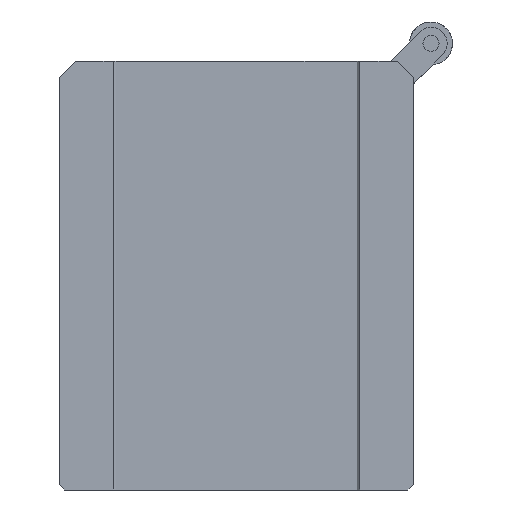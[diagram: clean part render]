
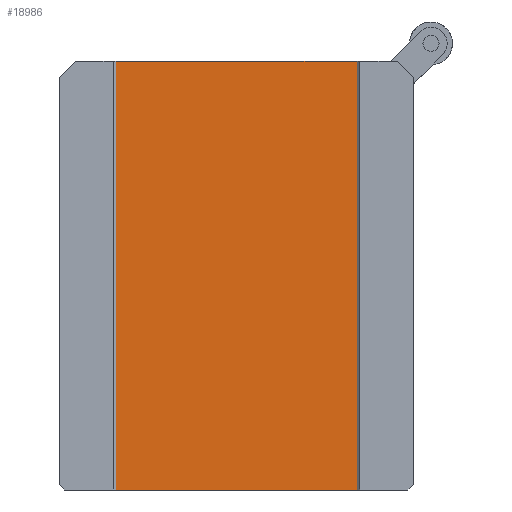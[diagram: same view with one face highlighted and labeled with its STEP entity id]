
A CAD part, front view. The second image highlights one B-rep face of the part: STEP entity #18986.
In plain terms, the highlighted planar face has unit normal (0, -1, 0).
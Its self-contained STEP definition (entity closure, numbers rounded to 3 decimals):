
#13290 = CARTESIAN_POINT ( 'NONE',  ( -22.5, 0.5, -80. ) ) ;
#13291 = DIRECTION ( 'NONE',  ( 0., 0., 1. ) ) ;
#13292 = VECTOR ( 'NONE', #13291, 1000. ) ;
#13293 = CARTESIAN_POINT ( 'NONE',  ( -22.5, 0.5, -80. ) ) ;
#13294 = LINE ( 'NONE', #13293, #13292 ) ;
#13295 = DIRECTION ( 'NONE',  ( 1., 0., 0. ) ) ;
#13296 = DIRECTION ( 'NONE',  ( 0., -1., 0. ) ) ;
#13297 = CARTESIAN_POINT ( 'NONE',  ( 22.5, 0.5, -80. ) ) ;
#13298 = AXIS2_PLACEMENT_3D ( 'NONE', #13297, #13296, #13295 ) ;
#13299 = PLANE ( 'NONE',  #13298 ) ;
#13300 = FACE_OUTER_BOUND ( 'NONE', #18981, .T. ) ;
#13301 = CARTESIAN_POINT ( 'NONE',  ( 22.5, 0.5, 0. ) ) ;
#13302 = CARTESIAN_POINT ( 'NONE',  ( -22.5, 0.5, 0. ) ) ;
#13303 = DIRECTION ( 'NONE',  ( 1., 0., 0. ) ) ;
#13304 = VECTOR ( 'NONE', #13303, 1000. ) ;
#13305 = CARTESIAN_POINT ( 'NONE',  ( 22.5, 0.5, 0. ) ) ;
#13306 = LINE ( 'NONE', #13305, #13304 ) ;
#13430 = DIRECTION ( 'NONE',  ( 0., 0., 1. ) ) ;
#13431 = VECTOR ( 'NONE', #13430, 1000. ) ;
#13432 = CARTESIAN_POINT ( 'NONE',  ( 22.5, 0.5, -80. ) ) ;
#13433 = LINE ( 'NONE', #13432, #13431 ) ;
#13434 = DIRECTION ( 'NONE',  ( 1., 0., 0. ) ) ;
#13435 = VECTOR ( 'NONE', #13434, 1000. ) ;
#13436 = CARTESIAN_POINT ( 'NONE',  ( 22.5, 0.5, -80. ) ) ;
#13437 = LINE ( 'NONE', #13436, #13435 ) ;
#13438 = CARTESIAN_POINT ( 'NONE',  ( 22.5, 0.5, -80. ) ) ;
#18981 = EDGE_LOOP ( 'NONE', ( #18987, #18988, #19001, #19057 ) ) ;
#18983 = EDGE_CURVE ( 'NONE', #18984, #18985, #13306, .T. ) ;
#18984 = VERTEX_POINT ( 'NONE', #13302 ) ;
#18985 = VERTEX_POINT ( 'NONE', #13301 ) ;
#18986 = ADVANCED_FACE ( 'NONE', ( #13300 ), #13299, .T. ) ;
#18987 = ORIENTED_EDGE ( 'NONE', *, *, #18983, .F. ) ;
#18988 = ORIENTED_EDGE ( 'NONE', *, *, #18989, .F. ) ;
#18989 = EDGE_CURVE ( 'NONE', #18990, #18984, #13294, .T. ) ;
#18990 = VERTEX_POINT ( 'NONE', #13290 ) ;
#19001 = ORIENTED_EDGE ( 'NONE', *, *, #19056, .T. ) ;
#19055 = VERTEX_POINT ( 'NONE', #13438 ) ;
#19056 = EDGE_CURVE ( 'NONE', #18990, #19055, #13437, .T. ) ;
#19057 = ORIENTED_EDGE ( 'NONE', *, *, #19058, .T. ) ;
#19058 = EDGE_CURVE ( 'NONE', #19055, #18985, #13433, .T. ) ;
